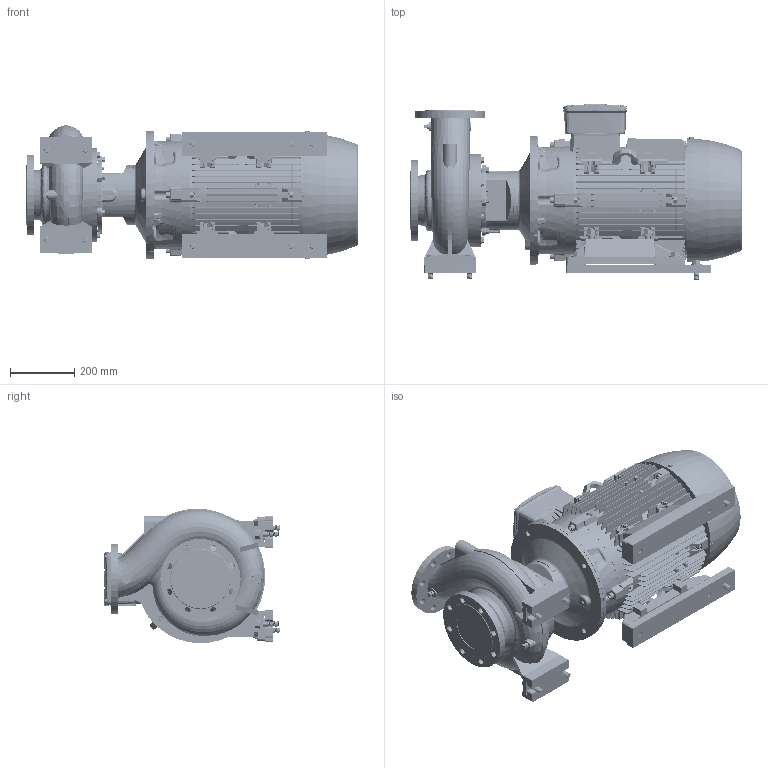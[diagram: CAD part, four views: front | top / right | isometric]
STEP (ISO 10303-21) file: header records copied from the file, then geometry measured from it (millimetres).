
FILE_DESCRIPTION (( 'STEP AP214' ), '1' );
FILE_NAME ('GSD2 100-200_30.0 & 37.0_(200ML)_W21.STEP', '2026-07-07T04:56:17', ( '' ), ( '' ), 'SwSTEP 2.0', 'SolidWorks 2024', '' );
FILE_SCHEMA (( 'AUTOMOTIVE_DESIGN' ));
Length unit declared in the file: millimetre
Products named in the file (10): 100-200-200M_L_ﾃﾞﾌｫﾙﾄ; Parametric bolt and washer_SFT-A365B; 80x25 - CGSDA-5271; Parametric bolt and washer_SFT-A359B; Parametric bolt_SFT-A359B; Parametric Flat Washer_M16; 200M_L ALIE3_W21T_B35; CGS11-5321_2_3_4_5_CGS11-5322; GSD2  100-200_30.0 & 37.0_(200ML)_W21; Parametric bolt_SFT-A365B
Assembly tree (20 placements, depth 3):
  GSD2  100-200_30.0 & 37.0_(200ML)_W21
    100-200-200M_L_ﾃﾞﾌｫﾙﾄ
    CGS11-5321_2_3_4_5_CGS11-5322  x2
    80x25 - CGSDA-5271  x2
    Parametric bolt and washer_SFT-A365B  x4
      Parametric bolt_SFT-A365B
      Parametric Flat Washer_M16
    Parametric bolt and washer_SFT-A359B  x6
      Parametric bolt_SFT-A359B
      Parametric Flat Washer_M16
    200M_L ALIE3_W21T_B35
Bounding box: 1033.8 x 546.5 x 418.81 mm (x, y, z)
Volume: 90415859.2 mm3; surface area: 4482356.1 mm2
Topology: 46 solids, 56 shells, 7385 faces, 19100 edges, 12246 vertices
Faces by surface type: plane 4225, cylinder 1380, bspline 1015, cone 570, torus 191, sphere 4
Entity records: 291316 total; most frequent: CARTESIAN_POINT 136501, ORIENTED_EDGE 34656, DIRECTION 27792, EDGE_CURVE 17328, VERTEX_POINT 11160, LINE 10664, VECTOR 10664, AXIS2_PLACEMENT_3D 8564
